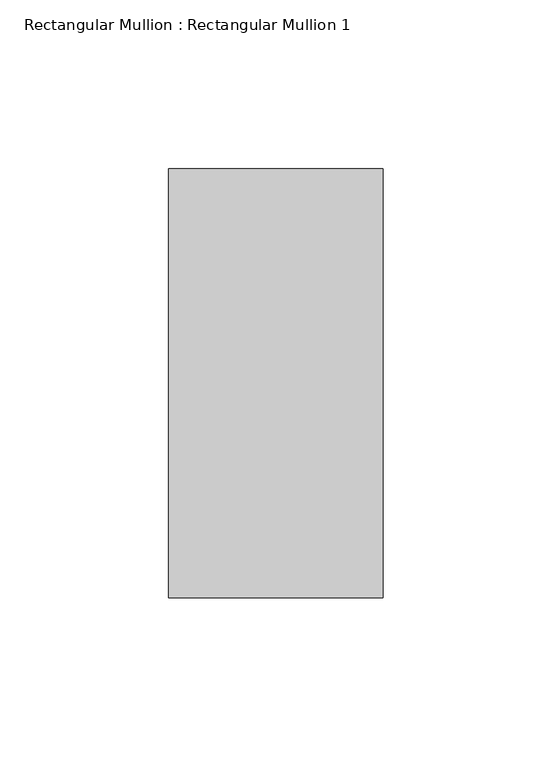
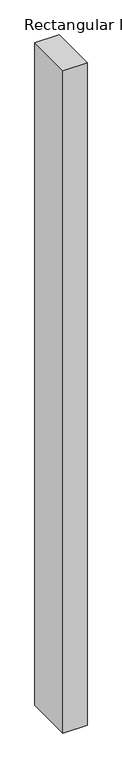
"""IFC4 building model written with IfcOpenShell, lengths in millimetres: member geometry, Rectangular Mullion : Rectangular Mullion 1."""

from ifc_helpers import new_model, si_unit, frame, origin, place, context, project, spatial, polyline, outline, extrude, source, transform, mapped, element, save


def rectangular_mullion_rectangular_mullion_1_546e9a78(model_context):
    return source(origin(), model_context, "Body", "SweptSolid", [
        extrude(outline(polyline([(0.0, 63.5), (0.0, -63.5), (-63.5, -63.5), (-63.5, 63.5), (0.0, 63.5)])), frame((0.0, 0.0, -1836.4999998), z_axis=(0.0, 0.0, 1.0), x_axis=(1.0, 0.0, 0.0)), (0.0, 0.0, 1.0), 1836.4999998),
    ])


if __name__ == "__main__":
    model = new_model("IFC4")
    model_context = context("Model", 3, world=origin())
    ifc_project = project(units=[si_unit("LENGTHUNIT", "METRE", prefix="MILLI")], contexts=[model_context])
    site = spatial("IfcSite", under=ifc_project)
    building = spatial("IfcBuilding", under=site)
    placement = place(None, origin())
    rectangular_mullion_rectangular_mullion_1_shape = rectangular_mullion_rectangular_mullion_1_546e9a78(model_context)
    element("IfcMember", 1, ObjectType="Rectangular Mullion : Rectangular Mullion 1", at=placement, inside=building, context=model_context, shape_type="MappedRepresentation", body=[
        mapped(rectangular_mullion_rectangular_mullion_1_shape, transform((0.0, 0.0, 0.0), x_axis=(1.0, 0.0, 0.0), y_axis=(0.0, 1.0, 0.0), z_axis=(0.0, 0.0, 1.0))),
    ])
    save(model, "model.ifc")
